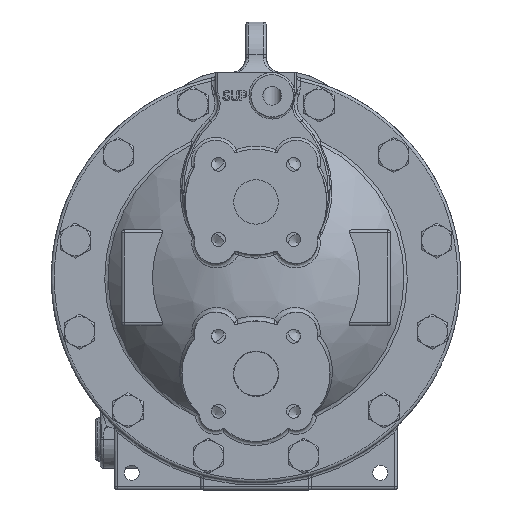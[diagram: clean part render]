
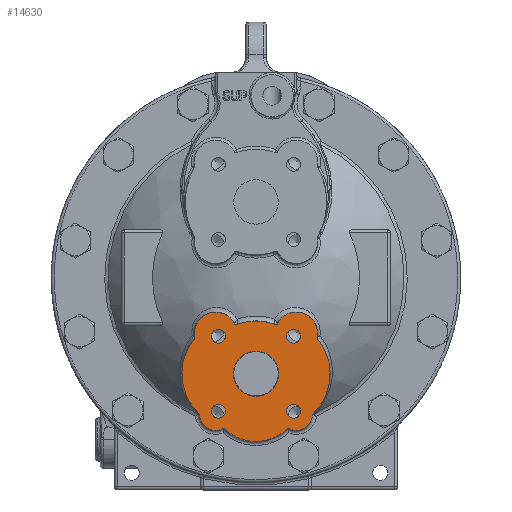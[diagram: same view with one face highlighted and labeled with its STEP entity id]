
A CAD part, front view. The second image highlights one B-rep face of the part: STEP entity #14630.
In plain terms, the highlighted planar face has unit normal (0, -1, 0).
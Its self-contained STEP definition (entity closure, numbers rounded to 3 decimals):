
#181=FACE_BOUND('',#2932,.T.);
#182=FACE_BOUND('',#2933,.T.);
#183=FACE_BOUND('',#2934,.T.);
#184=FACE_BOUND('',#2935,.T.);
#185=FACE_BOUND('',#2936,.T.);
#1674=PLANE('',#15817);
#2001=FACE_OUTER_BOUND('',#2931,.T.);
#2931=EDGE_LOOP('',(#9978,#9979,#9980,#9981,#9982,#9983,#9984,#9985,#9986,
#9987));
#2932=EDGE_LOOP('',(#9988,#9989));
#2933=EDGE_LOOP('',(#9990,#9991));
#2934=EDGE_LOOP('',(#9992,#9993));
#2935=EDGE_LOOP('',(#9994,#9995));
#2936=EDGE_LOOP('',(#9996,#9997));
#3685=CIRCLE('',#15359,6.918);
#3686=CIRCLE('',#15360,6.918);
#3691=CIRCLE('',#15367,6.918);
#3692=CIRCLE('',#15368,6.918);
#3697=CIRCLE('',#15375,6.918);
#3698=CIRCLE('',#15376,6.918);
#3707=CIRCLE('',#15390,6.918);
#3708=CIRCLE('',#15391,6.918);
#3941=CIRCLE('',#15804,16.);
#3952=CIRCLE('',#15818,45.);
#3953=CIRCLE('',#15819,16.);
#3954=CIRCLE('',#15820,55.);
#3955=CIRCLE('',#15821,21.);
#3956=CIRCLE('',#15822,2.);
#3957=CIRCLE('',#15823,52.3);
#3958=CIRCLE('',#15824,2.);
#3959=CIRCLE('',#15825,21.);
#3960=CIRCLE('',#15826,55.);
#3961=CIRCLE('',#15827,22.461);
#3962=CIRCLE('',#15828,22.461);
#5375=VERTEX_POINT('',#22192);
#5376=VERTEX_POINT('',#22193);
#5382=VERTEX_POINT('',#22210);
#5383=VERTEX_POINT('',#22211);
#5389=VERTEX_POINT('',#22228);
#5390=VERTEX_POINT('',#22229);
#5399=VERTEX_POINT('',#22257);
#5400=VERTEX_POINT('',#22258);
#5773=VERTEX_POINT('',#23626);
#5774=VERTEX_POINT('',#23627);
#5803=VERTEX_POINT('',#23747);
#5804=VERTEX_POINT('',#23749);
#5805=VERTEX_POINT('',#23751);
#5806=VERTEX_POINT('',#23753);
#5807=VERTEX_POINT('',#23755);
#5808=VERTEX_POINT('',#23757);
#5809=VERTEX_POINT('',#23759);
#5810=VERTEX_POINT('',#23761);
#5811=VERTEX_POINT('',#23764);
#5812=VERTEX_POINT('',#23765);
#6758=EDGE_CURVE('',#5375,#5376,#3685,.T.);
#6759=EDGE_CURVE('',#5376,#5375,#3686,.T.);
#6767=EDGE_CURVE('',#5382,#5383,#3691,.T.);
#6768=EDGE_CURVE('',#5383,#5382,#3692,.T.);
#6776=EDGE_CURVE('',#5389,#5390,#3697,.T.);
#6777=EDGE_CURVE('',#5390,#5389,#3698,.T.);
#6790=EDGE_CURVE('',#5399,#5400,#3707,.T.);
#6791=EDGE_CURVE('',#5400,#5399,#3708,.T.);
#7320=EDGE_CURVE('',#5773,#5774,#3941,.T.);
#7353=EDGE_CURVE('',#5803,#5773,#3952,.T.);
#7354=EDGE_CURVE('',#5804,#5803,#3953,.T.);
#7355=EDGE_CURVE('',#5805,#5804,#3954,.T.);
#7356=EDGE_CURVE('',#5806,#5805,#3955,.T.);
#7357=EDGE_CURVE('',#5807,#5806,#3956,.T.);
#7358=EDGE_CURVE('',#5808,#5807,#3957,.T.);
#7359=EDGE_CURVE('',#5809,#5808,#3958,.T.);
#7360=EDGE_CURVE('',#5810,#5809,#3959,.T.);
#7361=EDGE_CURVE('',#5774,#5810,#3960,.T.);
#7362=EDGE_CURVE('',#5811,#5812,#3961,.T.);
#7363=EDGE_CURVE('',#5812,#5811,#3962,.T.);
#9978=ORIENTED_EDGE('',*,*,#7320,.F.);
#9979=ORIENTED_EDGE('',*,*,#7353,.F.);
#9980=ORIENTED_EDGE('',*,*,#7354,.F.);
#9981=ORIENTED_EDGE('',*,*,#7355,.F.);
#9982=ORIENTED_EDGE('',*,*,#7356,.F.);
#9983=ORIENTED_EDGE('',*,*,#7357,.F.);
#9984=ORIENTED_EDGE('',*,*,#7358,.F.);
#9985=ORIENTED_EDGE('',*,*,#7359,.F.);
#9986=ORIENTED_EDGE('',*,*,#7360,.F.);
#9987=ORIENTED_EDGE('',*,*,#7361,.F.);
#9988=ORIENTED_EDGE('',*,*,#6758,.T.);
#9989=ORIENTED_EDGE('',*,*,#6759,.T.);
#9990=ORIENTED_EDGE('',*,*,#6767,.T.);
#9991=ORIENTED_EDGE('',*,*,#6768,.T.);
#9992=ORIENTED_EDGE('',*,*,#6776,.T.);
#9993=ORIENTED_EDGE('',*,*,#6777,.T.);
#9994=ORIENTED_EDGE('',*,*,#6790,.T.);
#9995=ORIENTED_EDGE('',*,*,#6791,.T.);
#9996=ORIENTED_EDGE('',*,*,#7362,.T.);
#9997=ORIENTED_EDGE('',*,*,#7363,.T.);
#14630=ADVANCED_FACE('',(#2001,#181,#182,#183,#184,#185),#1674,.F.);
#15359=AXIS2_PLACEMENT_3D('',#22194,#16927,#16928);
#15360=AXIS2_PLACEMENT_3D('',#22195,#16929,#16930);
#15367=AXIS2_PLACEMENT_3D('',#22212,#16946,#16947);
#15368=AXIS2_PLACEMENT_3D('',#22213,#16948,#16949);
#15375=AXIS2_PLACEMENT_3D('',#22230,#16965,#16966);
#15376=AXIS2_PLACEMENT_3D('',#22231,#16967,#16968);
#15390=AXIS2_PLACEMENT_3D('',#22259,#16999,#17000);
#15391=AXIS2_PLACEMENT_3D('',#22260,#17001,#17002);
#15804=AXIS2_PLACEMENT_3D('',#23628,#17996,#17997);
#15817=AXIS2_PLACEMENT_3D('',#23746,#18038,#18039);
#15818=AXIS2_PLACEMENT_3D('',#23748,#18040,#18041);
#15819=AXIS2_PLACEMENT_3D('',#23750,#18042,#18043);
#15820=AXIS2_PLACEMENT_3D('',#23752,#18044,#18045);
#15821=AXIS2_PLACEMENT_3D('',#23754,#18046,#18047);
#15822=AXIS2_PLACEMENT_3D('',#23756,#18048,#18049);
#15823=AXIS2_PLACEMENT_3D('',#23758,#18050,#18051);
#15824=AXIS2_PLACEMENT_3D('',#23760,#18052,#18053);
#15825=AXIS2_PLACEMENT_3D('',#23762,#18054,#18055);
#15826=AXIS2_PLACEMENT_3D('',#23763,#18056,#18057);
#15827=AXIS2_PLACEMENT_3D('',#23766,#18058,#18059);
#15828=AXIS2_PLACEMENT_3D('',#23767,#18060,#18061);
#16927=DIRECTION('center_axis',(0.,1.,0.));
#16928=DIRECTION('ref_axis',(0.,0.,
-1.));
#16929=DIRECTION('center_axis',(0.,1.,0.));
#16930=DIRECTION('ref_axis',(0.,0.,
-1.));
#16946=DIRECTION('center_axis',(0.,1.,0.));
#16947=DIRECTION('ref_axis',(-1.,0.,0.));
#16948=DIRECTION('center_axis',(0.,1.,0.));
#16949=DIRECTION('ref_axis',(-1.,0.,0.));
#16965=DIRECTION('center_axis',(0.,1.,0.));
#16966=DIRECTION('ref_axis',(0.,0.,
1.));
#16967=DIRECTION('center_axis',(0.,1.,0.));
#16968=DIRECTION('ref_axis',(0.,0.,
1.));
#16999=DIRECTION('center_axis',(0.,1.,0.));
#17000=DIRECTION('ref_axis',(1.,0.,0.));
#17001=DIRECTION('center_axis',(0.,1.,0.));
#17002=DIRECTION('ref_axis',(1.,0.,0.));
#17996=DIRECTION('center_axis',(0.,1.,0.));
#17997=DIRECTION('ref_axis',(1.,0.,0.));
#18038=DIRECTION('center_axis',(0.,1.,0.));
#18039=DIRECTION('ref_axis',(0.,0.,
1.));
#18040=DIRECTION('center_axis',(0.,1.,0.));
#18041=DIRECTION('ref_axis',(0.708,0.,-0.706));
#18042=DIRECTION('center_axis',(0.,1.,0.));
#18043=DIRECTION('ref_axis',(1.,0.,0.));
#18044=DIRECTION('center_axis',(0.,1.,0.));
#18045=DIRECTION('ref_axis',(0.767,0.,0.642));
#18046=DIRECTION('center_axis',(0.,1.,0.));
#18047=DIRECTION('ref_axis',(1.,0.,0.));
#18048=DIRECTION('center_axis',(0.,-1.,0.));
#18049=DIRECTION('ref_axis',(0.351,0.,-0.936));
#18050=DIRECTION('center_axis',(0.,1.,0.));
#18051=DIRECTION('ref_axis',(-0.919,0.,0.394));
#18052=DIRECTION('center_axis',(0.,-1.,0.));
#18053=DIRECTION('ref_axis',(-0.351,0.,-0.936));
#18054=DIRECTION('center_axis',(0.,1.,0.));
#18055=DIRECTION('ref_axis',(1.,0.,0.));
#18056=DIRECTION('center_axis',(0.,1.,0.));
#18057=DIRECTION('ref_axis',(-0.685,0.,-0.729));
#18058=DIRECTION('center_axis',(0.,1.,0.));
#18059=DIRECTION('ref_axis',(1.,0.,0.));
#18060=DIRECTION('center_axis',(0.,1.,0.));
#18061=DIRECTION('ref_axis',(1.,0.,0.));
#22192=CARTESIAN_POINT('',(37.123,-118.,70.959));
#22193=CARTESIAN_POINT('',(37.123,-118.,84.794));
#22194=CARTESIAN_POINT('Origin',(37.123,-118.,77.877));
#22195=CARTESIAN_POINT('Origin',(37.123,-118.,77.877));
#22210=CARTESIAN_POINT('',(-44.041,-118.,77.877));
#22211=CARTESIAN_POINT('',(-30.206,-118.,77.877));
#22212=CARTESIAN_POINT('Origin',(-37.123,-118.,77.877));
#22213=CARTESIAN_POINT('Origin',(-37.123,-118.,77.877));
#22228=CARTESIAN_POINT('',(-37.123,-118.,159.041));
#22229=CARTESIAN_POINT('',(-37.123,-118.,145.206));
#22230=CARTESIAN_POINT('Origin',(-37.123,-118.,152.123));
#22231=CARTESIAN_POINT('Origin',(-37.123,-118.,152.123));
#22257=CARTESIAN_POINT('',(44.041,-118.,152.123));
#22258=CARTESIAN_POINT('',(30.206,-118.,152.123));
#22259=CARTESIAN_POINT('Origin',(37.123,-118.,152.123));
#22260=CARTESIAN_POINT('Origin',(37.123,-118.,152.123));
#23626=CARTESIAN_POINT('',(-31.876,-118.,61.236));
#23627=CARTESIAN_POINT('',(-55.951,-118.,74.93));
#23628=CARTESIAN_POINT('Origin',(-39.952,-118.,75.048));
#23746=CARTESIAN_POINT('Origin',(40.334,-118.,74.377));
#23747=CARTESIAN_POINT('',(31.876,-118.,61.236));
#23748=CARTESIAN_POINT('Origin',(0.,-118.,93.));
#23749=CARTESIAN_POINT('',(55.951,-118.,74.93));
#23750=CARTESIAN_POINT('Origin',(39.952,-118.,75.048));
#23751=CARTESIAN_POINT('',(60.435,-118.,150.322));
#23752=CARTESIAN_POINT('Origin',(18.276,-118.,115.));
#23753=CARTESIAN_POINT('',(21.359,-118.,164.714));
#23754=CARTESIAN_POINT('Origin',(39.952,-118.,154.952));
#23755=CARTESIAN_POINT('',(18.867,-118.,163.779));
#23756=CARTESIAN_POINT('Origin',(19.588,-118.,165.644));
#23757=CARTESIAN_POINT('',(-18.867,-118.,163.779));
#23758=CARTESIAN_POINT('Origin',(0.,-118.,115.));
#23759=CARTESIAN_POINT('',(-21.359,-118.,164.714));
#23760=CARTESIAN_POINT('Origin',(-19.588,-118.,165.644));
#23761=CARTESIAN_POINT('',(-60.435,-118.,150.322));
#23762=CARTESIAN_POINT('Origin',(-39.952,-118.,154.952));
#23763=CARTESIAN_POINT('Origin',(-18.276,-118.,115.));
#23764=CARTESIAN_POINT('',(22.461,-118.,115.));
#23765=CARTESIAN_POINT('',(-22.461,-118.,115.));
#23766=CARTESIAN_POINT('Origin',(0.,-118.,115.));
#23767=CARTESIAN_POINT('Origin',(0.,-118.,115.));
